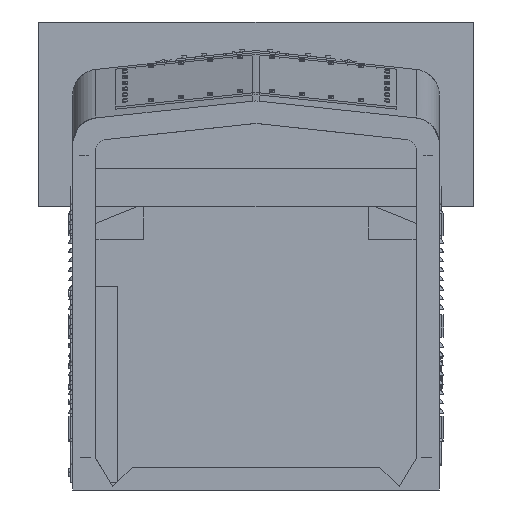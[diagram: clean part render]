
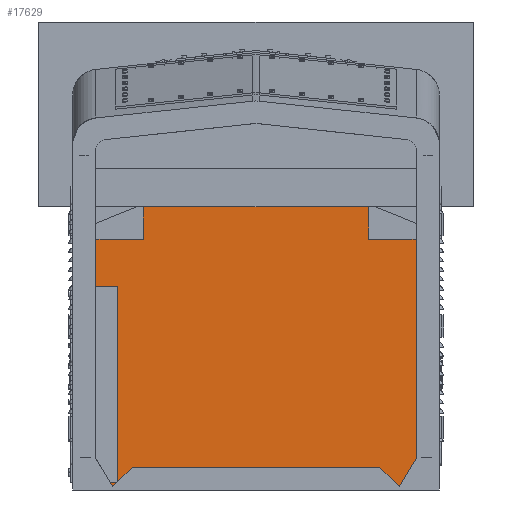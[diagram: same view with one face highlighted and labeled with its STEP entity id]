
A CAD part, left-side view. The second image highlights one B-rep face of the part: STEP entity #17629.
In plain terms, the highlighted planar face has unit normal (-1, 0, 0).
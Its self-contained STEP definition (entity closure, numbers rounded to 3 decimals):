
#17629=ADVANCED_FACE('',(#39459,#39460,#39461,#39462,#39463),#39464,.F.);
#39459=FACE_BOUND('',#68112,.T.);
#39460=FACE_BOUND('',#68113,.T.);
#39461=FACE_BOUND('',#68114,.T.);
#39462=FACE_BOUND('',#68115,.T.);
#39463=FACE_OUTER_BOUND('',#68116,.T.);
#39464=PLANE('',#68117);
#68112=EDGE_LOOP('',(#122937));
#68113=EDGE_LOOP('',(#122938));
#68114=EDGE_LOOP('',(#122939));
#68115=EDGE_LOOP('',(#122940));
#68116=EDGE_LOOP('',(#122941,#122942,#122943,#122944,#122945,#122946,#122947,#122948,#122949,#122950,#122951,#122952));
#68117=AXIS2_PLACEMENT_3D('',#122953,#122954,#122955);
#122937=ORIENTED_EDGE('',*,*,#170516,.T.);
#122938=ORIENTED_EDGE('',*,*,#168358,.T.);
#122939=ORIENTED_EDGE('',*,*,#167553,.T.);
#122940=ORIENTED_EDGE('',*,*,#160496,.T.);
#122941=ORIENTED_EDGE('',*,*,#163608,.T.);
#122942=ORIENTED_EDGE('',*,*,#169535,.T.);
#122943=ORIENTED_EDGE('',*,*,#169141,.F.);
#122944=ORIENTED_EDGE('',*,*,#170517,.F.);
#122945=ORIENTED_EDGE('',*,*,#149828,.F.);
#122946=ORIENTED_EDGE('',*,*,#169169,.F.);
#122947=ORIENTED_EDGE('',*,*,#169670,.F.);
#122948=ORIENTED_EDGE('',*,*,#158179,.T.);
#122949=ORIENTED_EDGE('',*,*,#155470,.T.);
#122950=ORIENTED_EDGE('',*,*,#169144,.T.);
#122951=ORIENTED_EDGE('',*,*,#158778,.T.);
#122952=ORIENTED_EDGE('',*,*,#170518,.T.);
#122953=CARTESIAN_POINT('',(175.5,319.542,42.137));
#122954=DIRECTION('',(1.0,0.0,0.));
#122955=DIRECTION('',(0.,0.0,-1.0));
#149828=EDGE_CURVE('',#177520,#177523,#177524,.T.);
#155470=EDGE_CURVE('',#187309,#187313,#187315,.F.);
#158179=EDGE_CURVE('',#191761,#187309,#191765,.T.);
#158778=EDGE_CURVE('',#192709,#192713,#192715,.F.);
#160496=EDGE_CURVE('',#195415,#195415,#195416,.T.);
#163608=EDGE_CURVE('',#200187,#200192,#200194,.F.);
#167553=EDGE_CURVE('',#205994,#205994,#205995,.T.);
#168358=EDGE_CURVE('',#207071,#207071,#207072,.T.);
#169141=EDGE_CURVE('',#208075,#208078,#208079,.T.);
#169144=EDGE_CURVE('',#187313,#192709,#208082,.T.);
#169169=EDGE_CURVE('',#208113,#177520,#208115,.T.);
#169535=EDGE_CURVE('',#200192,#208078,#208577,.T.);
#169670=EDGE_CURVE('',#191761,#208113,#208746,.T.);
#170516=EDGE_CURVE('',#209788,#209788,#209789,.T.);
#170517=EDGE_CURVE('',#177523,#208075,#209790,.T.);
#170518=EDGE_CURVE('',#192713,#200187,#209791,.T.);
#177520=VERTEX_POINT('',#217978);
#177523=VERTEX_POINT('',#217982);
#177524=LINE('',#217983,#217984);
#187309=VERTEX_POINT('',#231880);
#187313=VERTEX_POINT('',#231885);
#187315=CIRCLE('',#231888,3.75);
#191761=VERTEX_POINT('',#238263);
#191765=LINE('',#238269,#238270);
#192709=VERTEX_POINT('',#239631);
#192713=VERTEX_POINT('',#239636);
#192715=CIRCLE('',#239639,4.75);
#195415=VERTEX_POINT('',#243513);
#195416=CIRCLE('',#243514,0.95);
#200187=VERTEX_POINT('',#250463);
#200192=VERTEX_POINT('',#250469);
#200194=CIRCLE('',#250472,3.75);
#205994=VERTEX_POINT('',#259561);
#205995=CIRCLE('',#259562,0.95);
#207071=VERTEX_POINT('',#261099);
#207072=CIRCLE('',#261100,0.95);
#208075=VERTEX_POINT('',#262533);
#208078=VERTEX_POINT('',#262537);
#208079=LINE('',#262538,#262539);
#208082=LINE('',#262543,#262544);
#208113=VERTEX_POINT('',#262585);
#208115=LINE('',#262588,#262589);
#208577=LINE('',#263244,#263245);
#208746=LINE('',#263482,#263483);
#209788=VERTEX_POINT('',#265002);
#209789=CIRCLE('',#265003,0.95);
#209790=LINE('',#265004,#265005);
#209791=LINE('',#265006,#265007);
#217978=CARTESIAN_POINT('',(175.5,-28.5,-19.0));
#217982=CARTESIAN_POINT('',(175.5,28.5,-19.0));
#217983=CARTESIAN_POINT('',(175.5,0.,-19.0));
#217984=VECTOR('',#274228,1.0);
#231880=CARTESIAN_POINT('',(175.5,-28.25,42.399));
#231885=CARTESIAN_POINT('',(175.5,-24.893,46.128));
#231888=AXIS2_PLACEMENT_3D('',#279607,#279608,#279609);
#238263=CARTESIAN_POINT('',(175.5,-28.25,33.472));
#238269=CARTESIAN_POINT('',(175.5,-28.25,42.399));
#238270=VECTOR('',#282167,1.0);
#239631=CARTESIAN_POINT('',(175.5,-0.497,48.696));
#239636=CARTESIAN_POINT('',(175.5,0.497,48.696));
#239639=AXIS2_PLACEMENT_3D('',#282701,#282702,#282703);
#243513=CARTESIAN_POINT('',(175.5,-25.8,-10.5));
#243514=AXIS2_PLACEMENT_3D('',#284256,#284257,#284258);
#250463=CARTESIAN_POINT('',(175.5,24.893,46.128));
#250469=CARTESIAN_POINT('',(175.5,28.25,42.399));
#250472=AXIS2_PLACEMENT_3D('',#287105,#287106,#287107);
#259561=CARTESIAN_POINT('',(175.5,27.7,-10.5));
#259562=AXIS2_PLACEMENT_3D('',#290724,#290725,#290726);
#261099=CARTESIAN_POINT('',(175.5,27.7,15.5));
#261100=AXIS2_PLACEMENT_3D('',#291476,#291477,#291478);
#262533=CARTESIAN_POINT('',(175.5,28.5,33.222));
#262537=CARTESIAN_POINT('',(175.5,28.25,33.472));
#262538=CARTESIAN_POINT('',(175.5,28.25,33.472));
#262539=VECTOR('',#292156,1.0);
#262543=CARTESIAN_POINT('',(175.5,-0.497,48.696));
#262544=VECTOR('',#292158,1.0);
#262585=CARTESIAN_POINT('',(175.5,-28.5,33.222));
#262588=CARTESIAN_POINT('',(175.5,-28.5,13.5));
#262589=VECTOR('',#292182,1.0);
#263244=CARTESIAN_POINT('',(175.5,28.25,33.472));
#263245=VECTOR('',#292547,1.0);
#263482=CARTESIAN_POINT('',(175.5,-28.25,33.472));
#263483=VECTOR('',#292649,1.0);
#265002=CARTESIAN_POINT('',(175.5,-25.8,15.5));
#265003=AXIS2_PLACEMENT_3D('',#293271,#293272,#293273);
#265004=CARTESIAN_POINT('',(175.5,28.5,13.5));
#265005=VECTOR('',#293274,1.0);
#265006=CARTESIAN_POINT('',(175.5,24.893,46.128));
#265007=VECTOR('',#293275,1.0);
#274228=DIRECTION('',(0.,1.0,0.));
#279607=CARTESIAN_POINT('',(175.5,-24.5,42.399));
#279608=DIRECTION('',(1.0,0.0,0.));
#279609=DIRECTION('',(0.,0.0,-1.0));
#282167=DIRECTION('',(0.,0.,1.0));
#282701=CARTESIAN_POINT('',(175.5,0.,43.972));
#282702=DIRECTION('',(1.0,0.0,0.));
#282703=DIRECTION('',(0.,0.0,-1.0));
#284256=CARTESIAN_POINT('',(175.5,-26.75,-10.5));
#284257=DIRECTION('',(1.0,0.0,0.));
#284258=DIRECTION('',(0.0,1.0,0.0));
#287105=CARTESIAN_POINT('',(175.5,24.5,42.399));
#287106=DIRECTION('',(1.0,0.0,0.));
#287107=DIRECTION('',(0.,0.0,-1.0));
#290724=CARTESIAN_POINT('',(175.5,26.75,-10.5));
#290725=DIRECTION('',(1.0,0.0,0.));
#290726=DIRECTION('',(0.0,1.0,0.0));
#291476=CARTESIAN_POINT('',(175.5,26.75,15.5));
#291477=DIRECTION('',(1.0,0.0,0.));
#291478=DIRECTION('',(0.0,1.0,0.0));
#292156=DIRECTION('',(0.,-0.707,0.707));
#292158=DIRECTION('',(0.,0.995,0.105));
#292182=DIRECTION('',(0.,0.,-1.0));
#292547=DIRECTION('',(0.,0.,-1.0));
#292649=DIRECTION('',(0.,-0.707,-0.707));
#293271=CARTESIAN_POINT('',(175.5,-26.75,15.5));
#293272=DIRECTION('',(1.0,0.0,0.));
#293273=DIRECTION('',(0.0,1.0,0.0));
#293274=DIRECTION('',(0.,0.,1.0));
#293275=DIRECTION('',(0.,0.995,-0.105));
